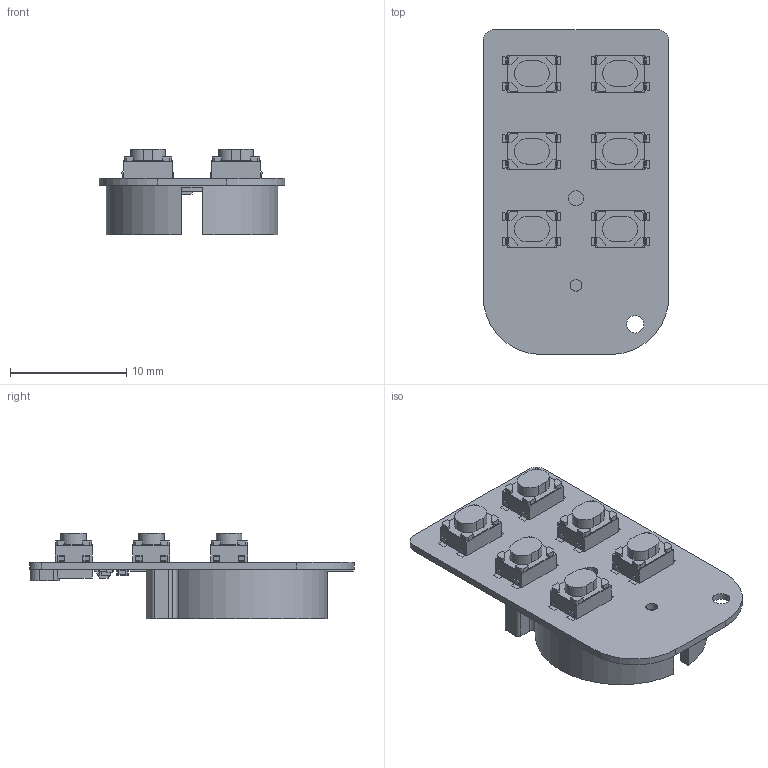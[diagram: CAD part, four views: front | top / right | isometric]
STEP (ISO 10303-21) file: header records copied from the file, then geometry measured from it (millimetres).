
FILE_DESCRIPTION(('FreeCAD Model'),'2;1');
FILE_NAME('/home/devy/MEGA/ALL_WORK_SECOND_TIME(5-10-20)/Current(5-11-20)/BoardsANDBoardModels/TinyCircuits-Tiny-Remote-ASM4004/cad/TinyRemote_STEP_ASM4004_REV1.step', '2020-06-30T15:34:42',('Author'),(''), 'Open CASCADE STEP processor 7.4','FreeCAD','Unknown');
FILE_SCHEMA(('AUTOMOTIVE_DESIGN { 1 0 10303 214 1 1 1 1 }'));
Length unit declared in the file: millimetre
Products named in the file (1): TinyRemote_STEP_ASM4004_REV1
Bounding box: 16 x 28 x 7.35 mm (x, y, z)
Volume: 1386.7 mm3; surface area: 4669.6 mm2
Topology: 224 solids, 244 shells, 3368 faces, 9013 edges, 7045 vertices
Faces by surface type: plane 2844, cylinder 268, bspline 202, sphere 48, revolution 6
Full cylindrical faces by diameter (mm): 0.14 x2, 1 x12, 1.002 x2, 1.302 x2, 1.502 x2
Entity records: 246728 total; most frequent: CARTESIAN_POINT 55326, DIRECTION 30318, LINE 21852, VECTOR 21852, ORIENTED_EDGE 16046, PCURVE 16046, DEFINITIONAL_REPRESENTATION 16046, EDGE_CURVE 8042
